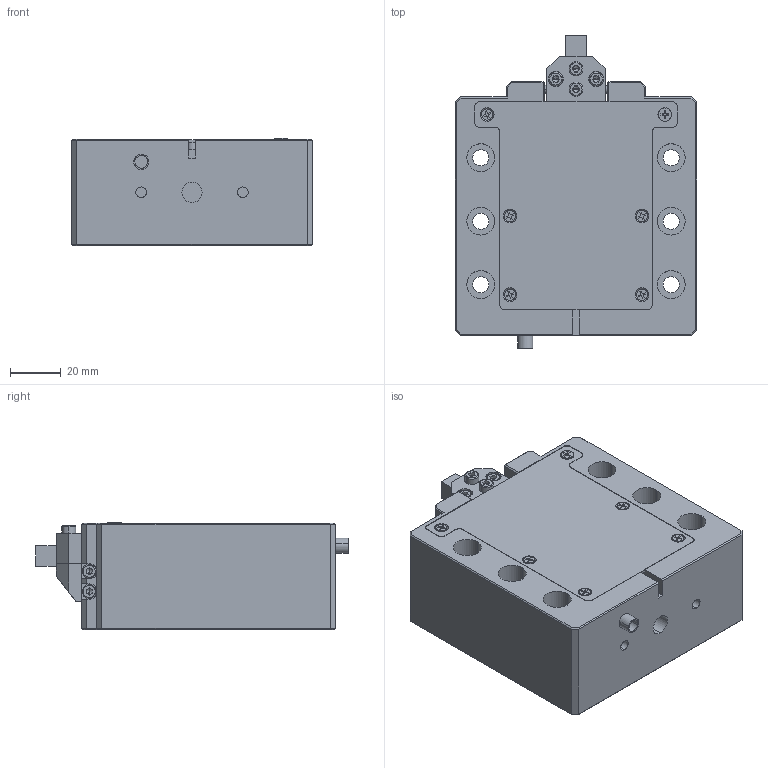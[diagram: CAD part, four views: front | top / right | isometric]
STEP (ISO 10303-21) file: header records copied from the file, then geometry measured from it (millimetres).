
FILE_DESCRIPTION (( 'STEP AP203' ), '1' );
FILE_NAME ('92.X20-D4蚾饜极(諦誧)22.10.25.STEP', '2022-10-25T00:31:48', ( 'Windows User' ), ( 'P R C' ), 'SwSTEP 2.0', 'SolidWorks 2016', '' );
FILE_SCHEMA (( 'CONFIG_CONTROL_DESIGN' ));
Length unit declared in the file: millimetre
Products named in the file (1): 92.X20-D4蚾饜极(諦誧)22.10.25
Bounding box: 95 x 123 x 42.25 mm (x, y, z)
Volume: 218939.3 mm3; surface area: 74229.5 mm2
Topology: 28 solids, 28 shells, 911 faces, 2274 edges, 1426 vertices
Faces by surface type: plane 497, cylinder 267, cone 131, torus 16
Entity records: 26925 total; most frequent: DIRECTION 4766, CARTESIAN_POINT 4655, ORIENTED_EDGE 4468, EDGE_CURVE 2234, AXIS2_PLACEMENT_3D 1641, VECTOR 1484, LINE 1484, VERTEX_POINT 1426
